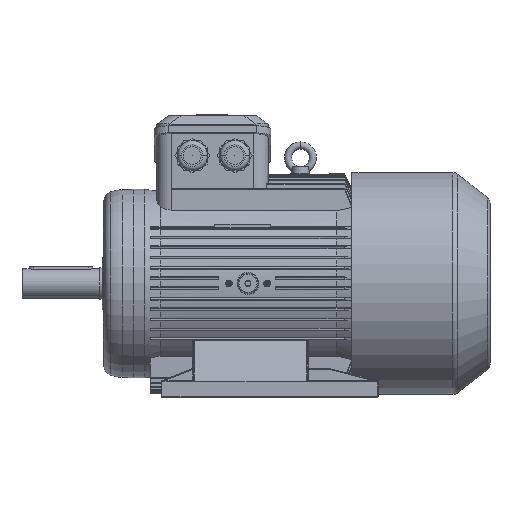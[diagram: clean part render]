
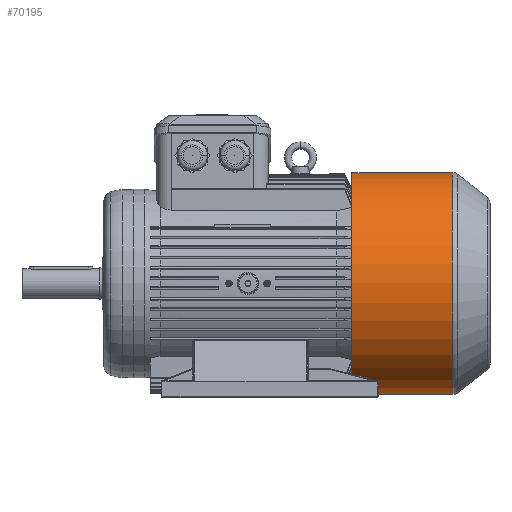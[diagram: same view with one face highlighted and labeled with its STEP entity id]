
A CAD part, top view. The second image highlights one B-rep face of the part: STEP entity #70195.
In plain terms, the highlighted cylindrical face has radius 156.75 mm (diameter 313.5 mm), a partial arc.
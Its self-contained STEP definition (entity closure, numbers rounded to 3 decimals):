
#401 = CARTESIAN_POINT ( 'NONE',  ( 466., -156.75, 0. ) ) ;
#2280 = LINE ( 'NONE', #35035, #39642 ) ;
#3713 = DIRECTION ( 'NONE',  ( 0., 1., 0. ) ) ;
#9084 = CARTESIAN_POINT ( 'NONE',  ( 661., 156.75, 0. ) ) ;
#10018 = DIRECTION ( 'NONE',  ( 0., 1., 0. ) ) ;
#10550 = VERTEX_POINT ( 'NONE', #27580 ) ;
#14071 = LINE ( 'NONE', #9084, #34106 ) ;
#15187 = DIRECTION ( 'NONE',  ( 1., 0., 0. ) ) ;
#15247 = DIRECTION ( 'NONE',  ( 1., 0., 0. ) ) ;
#15318 = AXIS2_PLACEMENT_3D ( 'NONE', #71345, #76483, #10018 ) ;
#15986 = ORIENTED_EDGE ( 'NONE', *, *, #42248, .T. ) ;
#17105 = CARTESIAN_POINT ( 'NONE',  ( 466., 0., 0. ) ) ;
#17281 = CARTESIAN_POINT ( 'NONE',  ( 466., 156.75, 0. ) ) ;
#17669 = EDGE_CURVE ( 'NONE', #10550, #36532, #75355, .T. ) ;
#22812 = AXIS2_PLACEMENT_3D ( 'NONE', #34717, #15187, #40605 ) ;
#23649 = VERTEX_POINT ( 'NONE', #401 ) ;
#24237 = EDGE_CURVE ( 'NONE', #23649, #36532, #2280, .T. ) ;
#26801 = AXIS2_PLACEMENT_3D ( 'NONE', #17105, #40425, #3713 ) ;
#27580 = CARTESIAN_POINT ( 'NONE',  ( 608.599, 156.75, 0. ) ) ;
#29462 = CYLINDRICAL_SURFACE ( 'NONE', #22812, 156.75 ) ;
#32194 = EDGE_LOOP ( 'NONE', ( #15986, #44228, #54920, #56906 ) ) ;
#34106 = VECTOR ( 'NONE', #15247, 1000. ) ;
#34717 = CARTESIAN_POINT ( 'NONE',  ( 661., 0., 0. ) ) ;
#35035 = CARTESIAN_POINT ( 'NONE',  ( 661., -156.75, 0. ) ) ;
#36314 = CARTESIAN_POINT ( 'NONE',  ( 608.599, -156.75, 0. ) ) ;
#36479 = VERTEX_POINT ( 'NONE', #17281 ) ;
#36532 = VERTEX_POINT ( 'NONE', #36314 ) ;
#38944 = CIRCLE ( 'NONE', #26801, 156.75 ) ;
#39642 = VECTOR ( 'NONE', #59065, 1000. ) ;
#40425 = DIRECTION ( 'NONE',  ( 1., 0., 0. ) ) ;
#40605 = DIRECTION ( 'NONE',  ( 0., 1., 0. ) ) ;
#42248 = EDGE_CURVE ( 'NONE', #36479, #23649, #38944, .T. ) ;
#44228 = ORIENTED_EDGE ( 'NONE', *, *, #24237, .T. ) ;
#48219 = EDGE_CURVE ( 'NONE', #36479, #10550, #14071, .T. ) ;
#54920 = ORIENTED_EDGE ( 'NONE', *, *, #17669, .F. ) ;
#56906 = ORIENTED_EDGE ( 'NONE', *, *, #48219, .F. ) ;
#59065 = DIRECTION ( 'NONE',  ( 1., 0., 0. ) ) ;
#69723 = FACE_OUTER_BOUND ( 'NONE', #32194, .T. ) ;
#70195 = ADVANCED_FACE ( 'NONE', ( #69723 ), #29462, .T. ) ;
#71345 = CARTESIAN_POINT ( 'NONE',  ( 608.599, 0., 0. ) ) ;
#75355 = CIRCLE ( 'NONE', #15318, 156.75 ) ;
#76483 = DIRECTION ( 'NONE',  ( 1., 0., 0. ) ) ;
